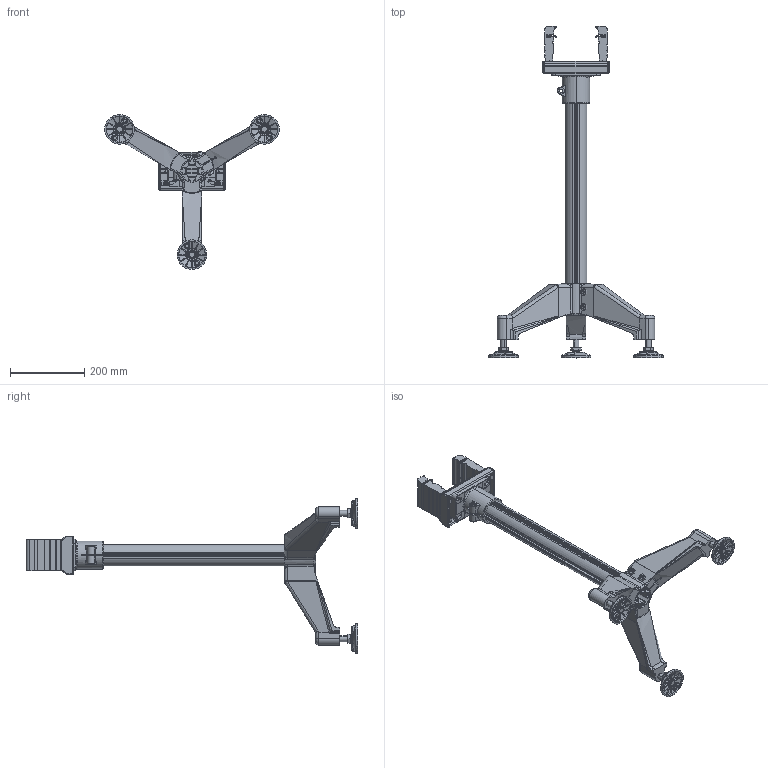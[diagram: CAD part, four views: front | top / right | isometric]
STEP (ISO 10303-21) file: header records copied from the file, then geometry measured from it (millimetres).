
FILE_DESCRIPTION (( 'STEP AP214' ), '1' );
FILE_NAME ('R3-P3.STEP', '2011-04-13T13:53:37', ( '.' ), ( '' ), 'SwSTEP 2.0', 'SolidWorks 2010', '' );
FILE_SCHEMA (( 'AUTOMOTIVE_DESIGN' ));
Length unit declared in the file: millimetre
Products named in the file (11): Écrou M16_Default; Tige fileté; 331-3-NU; TUA-60-4R_0662; R3-P3; 331-4; R2SL32P_Default<Brut d''usinage>; EPR_Larg. 118 mm; Semelle; 331-80; EMEPR
Assembly tree (14 placements, depth 3):
  R3-P3
    331-80  x3
      Semelle
      Écrou M16_Default
      Tige fileté
    R2SL32P_Default<Brut d''usinage>  x2
    TUA-60-4R_0662
    EPR_Larg. 118 mm
    331-4
    EMEPR  x2
    331-3-NU
Bounding box: 470.58 x 894.97 x 418.25 mm (x, y, z)
Volume: 3522353.4 mm3; surface area: 904485.2 mm2
Topology: 19 solids, 19 shells, 1766 faces, 4776 edges, 3052 vertices
Faces by surface type: plane 676, cylinder 506, cone 205, torus 177, bspline 148, sphere 54
Entity records: 42659 total; most frequent: CARTESIAN_POINT 12395, ORIENTED_EDGE 6058, DIRECTION 5583, EDGE_CURVE 3029, AXIS2_PLACEMENT_3D 2052, VERTEX_POINT 1950, VECTOR 1479, LINE 1479
